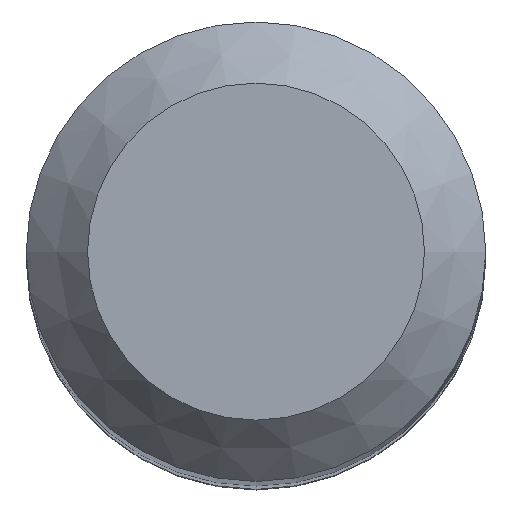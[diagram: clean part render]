
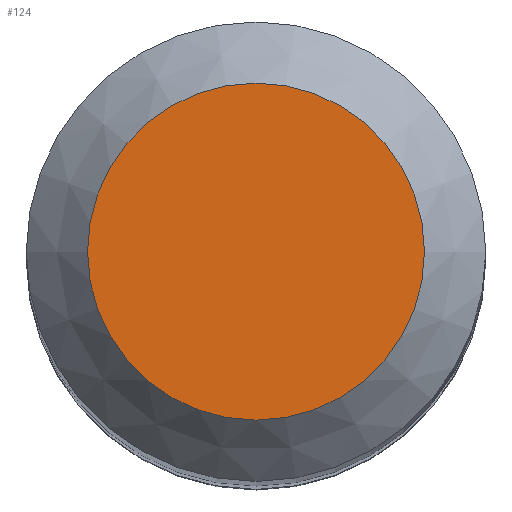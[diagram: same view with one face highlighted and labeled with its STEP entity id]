
A CAD part, top view. The second image highlights one B-rep face of the part: STEP entity #124.
In plain terms, the highlighted planar face has unit normal (0, 0, 1).
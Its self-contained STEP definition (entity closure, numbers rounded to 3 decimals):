
#108=CARTESIAN_POINT('',(2.2,0.0,65.0));
#109=DIRECTION('',(0.0,0.0,1.0));
#110=DIRECTION('',(1.0,0.0,0.0));
#111=AXIS2_PLACEMENT_3D('',#108,#109,#110);
#112=PLANE('',#111);
#113=CARTESIAN_POINT('',(-2.2,0.0,65.0));
#114=VERTEX_POINT('',#113);
#115=CARTESIAN_POINT('',(0.0,0.0,65.0));
#116=DIRECTION('',(0.0,0.0,-1.0));
#117=DIRECTION('',(-1.0,0.0,0.0));
#118=AXIS2_PLACEMENT_3D('',#115,#116,#117);
#119=CIRCLE('',#118,2.2);
#120=EDGE_CURVE('',#114,#114,#119,.T.);
#121=ORIENTED_EDGE('',*,*,#120,.F.);
#122=EDGE_LOOP('',(#121));
#123=FACE_OUTER_BOUND('',#122,.T.);
#124=ADVANCED_FACE('',(#123),#112,.T.);
